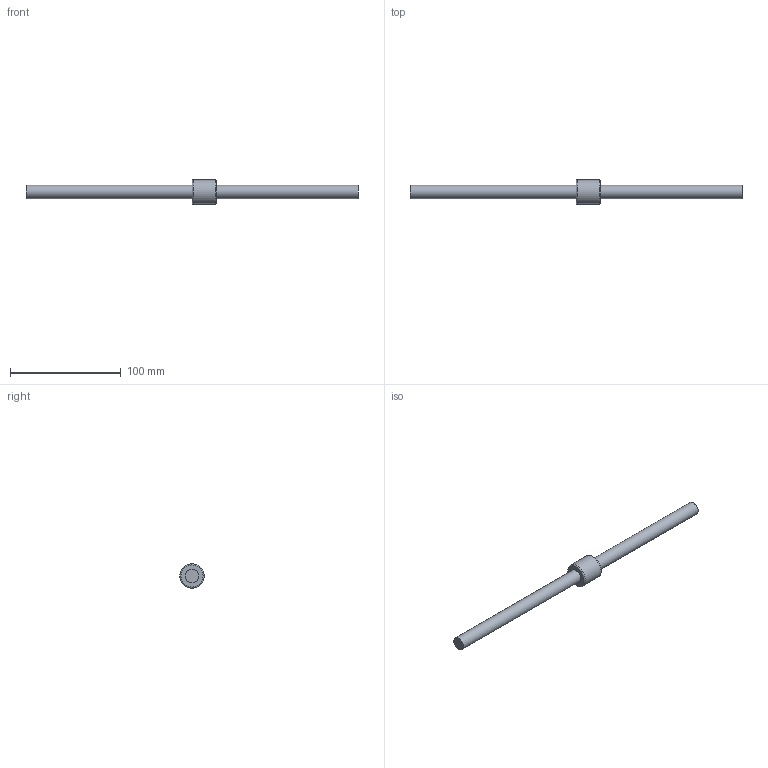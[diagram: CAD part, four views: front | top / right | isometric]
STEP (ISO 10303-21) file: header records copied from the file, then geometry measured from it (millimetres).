
FILE_DESCRIPTION((''),'2;1');
FILE_NAME('D:\製品 (図面)\カタログ用3D\ネジ関連\STEP形式\TMS\TMS12.stp','2010-06-02T15:30:59',('Tsuchiya'),(''),'Autodesk Inventor 10','Autodesk Inventor 10','');
FILE_SCHEMA(('AUTOMOTIVE_DESIGN { 1 0 10303 214 1 1 1 1 }'));
Length unit declared in the file: millimetre
Products named in the file (3): TMS12; TMS121; TMS122
Assembly tree (2 placements, depth 2):
  TMS12
    TMS121
    TMS122
Bounding box: 300 x 22 x 22 mm (x, y, z)
Volume: 39774.9 mm3; surface area: 14359.7 mm2
Topology: 2 solids, 2 shells, 9 faces, 13 edges, 8 vertices
Faces by surface type: plane 4, cylinder 3, torus 2
Full cylindrical faces by diameter (mm): 12 x2, 22 x1
Entity records: 254 total; most frequent: DIRECTION 44, CARTESIAN_POINT 30, AXIS2_PLACEMENT_3D 22, ORIENTED_EDGE 16, EDGE_LOOP 16, FACE_OUTER_BOUND 9, ADVANCED_FACE 9, VERTEX_POINT 8
